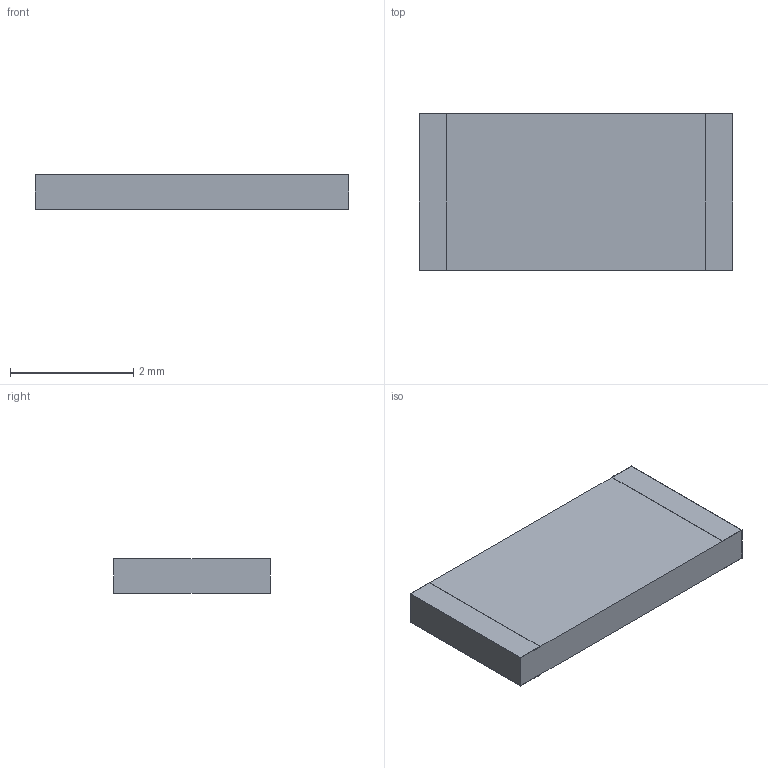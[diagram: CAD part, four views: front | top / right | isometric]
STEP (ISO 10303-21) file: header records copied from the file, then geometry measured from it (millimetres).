
FILE_DESCRIPTION(/* description */ (''),/* implementation_level */ '2;1');
FILE_NAME(/* name */ 'S:\DOCUMENT\AUTOCAD\3D_Modèles\10_3D-pour-VISHAY-COM\01_FICHIERS_ZIP_MARKETING\C4\CHPHR2010_B-or-G.stp',/* time_stamp */ '2018-01-23T13:59:38+01:00',/* author */ ('dparmentier'),/* organization */ ('unknown'),/* preprocessor_version */ 'ST-DEVELOPER v17',/* originating_system */ 'Autodesk Inventor 2018',/* authorisation */ '');
FILE_SCHEMA (('AUTOMOTIVE_DESIGN { 1 0 10303 214 3 1 1 }'));
Length unit declared in the file: millimetre
Products named in the file (1): CHPHR2010_B-or-G
Bounding box: 5.08 x 2.54 x 0.56 mm (x, y, z)
Volume: 7.2 mm3; surface area: 49 mm2
Topology: 3 solids, 3 shells, 26 faces, 60 edges, 40 vertices
Faces by surface type: plane 26
Entity records: 775 total; most frequent: CARTESIAN_POINT 127, ORIENTED_EDGE 120, DIRECTION 114, LINE 60, VECTOR 60, EDGE_CURVE 60, VERTEX_POINT 40, AXIS2_PLACEMENT_3D 27
